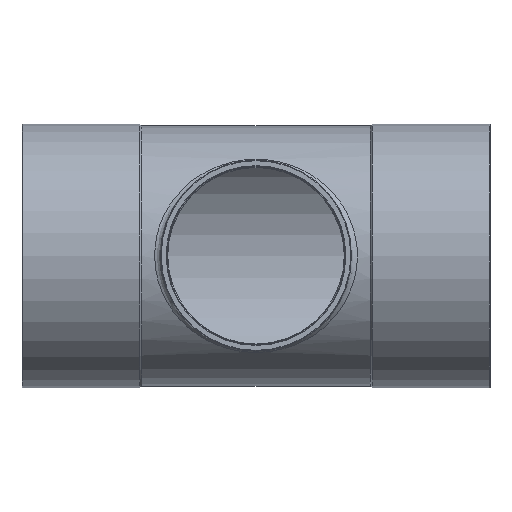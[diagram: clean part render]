
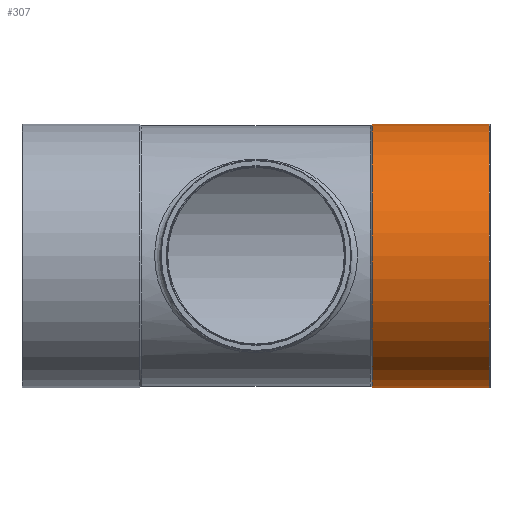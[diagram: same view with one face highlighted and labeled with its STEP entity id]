
A CAD part, top view. The second image highlights one B-rep face of the part: STEP entity #307.
In plain terms, the highlighted cylindrical face has radius 40 mm (diameter 80 mm), a partial arc.
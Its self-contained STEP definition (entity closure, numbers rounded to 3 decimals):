
#135=CARTESIAN_POINT('',(35.213,40.0,0.0));
#136=VERTEX_POINT('',#135);
#152=CARTESIAN_POINT('',(35.213,-40.0,0.));
#153=VERTEX_POINT('',#152);
#160=CARTESIAN_POINT('',(35.213,0.0,0.0));
#161=DIRECTION('',(1.0,0.0,0.0));
#162=DIRECTION('',(0.0,1.0,0.0));
#163=AXIS2_PLACEMENT_3D('',#160,#161,#162);
#164=CIRCLE('',#163,40.0);
#165=EDGE_CURVE('',#136,#153,#164,.T.);
#276=CARTESIAN_POINT('',(53.106,0.0,0.0));
#277=DIRECTION('',(1.0,0.0,0.0));
#278=DIRECTION('',(0.0,1.0,0.0));
#279=AXIS2_PLACEMENT_3D('',#276,#277,#278);
#280=CYLINDRICAL_SURFACE('',#279,40.0);
#281=CARTESIAN_POINT('',(70.8,40.0,0.));
#282=VERTEX_POINT('',#281);
#283=CARTESIAN_POINT('',(35.213,40.0,0.0));
#284=DIRECTION('',(1.0,0.0,0.0));
#285=VECTOR('',#284,35.587);
#286=LINE('',#283,#285);
#287=EDGE_CURVE('',#136,#282,#286,.T.);
#288=ORIENTED_EDGE('',*,*,#287,.F.);
#289=ORIENTED_EDGE('',*,*,#165,.T.);
#290=CARTESIAN_POINT('',(70.8,-40.0,0.));
#291=VERTEX_POINT('',#290);
#292=CARTESIAN_POINT('',(70.8,-40.0,0.));
#293=DIRECTION('',(-1.0,0.0,0.0));
#294=VECTOR('',#293,35.587);
#295=LINE('',#292,#294);
#296=EDGE_CURVE('',#291,#153,#295,.T.);
#297=ORIENTED_EDGE('',*,*,#296,.F.);
#298=CARTESIAN_POINT('',(70.8,0.0,0.0));
#299=DIRECTION('',(1.0,0.0,0.0));
#300=DIRECTION('',(0.0,-1.0,0.0));
#301=AXIS2_PLACEMENT_3D('',#298,#299,#300);
#302=CIRCLE('',#301,40.0);
#303=EDGE_CURVE('',#282,#291,#302,.T.);
#304=ORIENTED_EDGE('',*,*,#303,.F.);
#305=EDGE_LOOP('',(#288,#289,#297,#304));
#306=FACE_OUTER_BOUND('',#305,.T.);
#307=ADVANCED_FACE('',(#306),#280,.T.);
